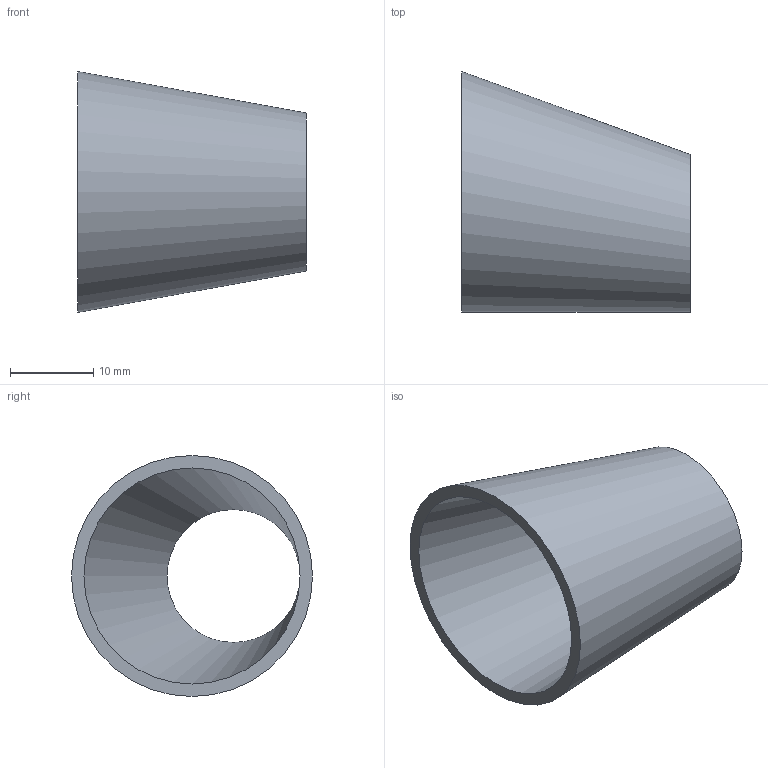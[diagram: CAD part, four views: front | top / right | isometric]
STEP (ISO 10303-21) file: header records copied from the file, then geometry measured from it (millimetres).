
FILE_DESCRIPTION(('FreeCAD Model'),'2;1');
FILE_NAME( '/home/martin/Documents/proyect/accesorios/stp/red-exc_DN25-15.step', '2017-12-31T13:02:10',('Author'),(''), 'Open CASCADE STEP processor 6.8','FreeCAD','Unknown');
FILE_SCHEMA(('AUTOMOTIVE_DESIGN_CC2 { 1 2 10303 214 -1 1 5 4 }'));
Length unit declared in the file: millimetre
Products named in the file (1): red-exc_DN25-15
Bounding box: 27.5 x 29 x 29 mm (x, y, z)
Volume: 2915.8 mm3; surface area: 4194 mm2
Topology: 1 solids, 1 shells, 4 faces, 6 edges, 4 vertices
Faces by surface type: bspline 2, plane 2
Entity records: 247 total; most frequent: CARTESIAN_POINT 87, DIRECTION 26, ORIENTED_EDGE 12, PCURVE 12, DEFINITIONAL_REPRESENTATION 12, CIRCLE 8, LINE 8, VECTOR 8
